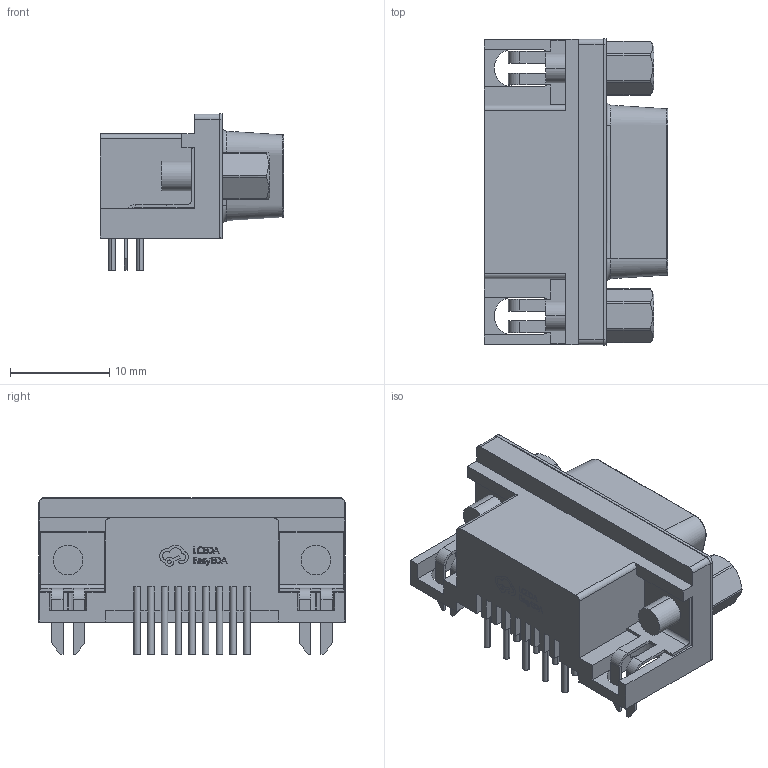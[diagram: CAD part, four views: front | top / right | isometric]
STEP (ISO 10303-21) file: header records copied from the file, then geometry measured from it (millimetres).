
FILE_DESCRIPTION(('Designed by EasyEDA Pro'),'2;1');
FILE_NAME('Open CASCADE Shape Model','2024-10-17T09:54:13',('Author'),( 'Open CASCADE'),'Open CASCADE STEP processor 7.6','Open CASCADE 7.8' ,'Unknown');
FILE_SCHEMA(('AUTOMOTIVE_DESIGN_CC2 { 1 2 10303 214 -1 1 5 4 }'));
Length unit declared in the file: millimetre
Products named in the file (4): PCBModel; 5t6i-DSUB1; DSUB-TH_DMR-9P; COMPOUND
Assembly tree (3 placements, depth 4):
  PCBModel
    5t6i-DSUB1
      DSUB-TH_DMR-9P
        COMPOUND
Bounding box: 18.5 x 30.9 x 15.81 mm (x, y, z)
Volume: 2942.5 mm3; surface area: 3761.7 mm2
Topology: 3 solids, 3 shells, 570 faces, 1493 edges, 976 vertices
Faces by surface type: plane 332, bspline 118, cylinder 94, revolution 18, cone 8
Entity records: 24420 total; most frequent: CARTESIAN_POINT 5813, ORIENTED_EDGE 2986, DIRECTION 2349, EDGE_CURVE 1493, LINE 979, VECTOR 979, VERTEX_POINT 976, AXIS2_PLACEMENT_3D 676
